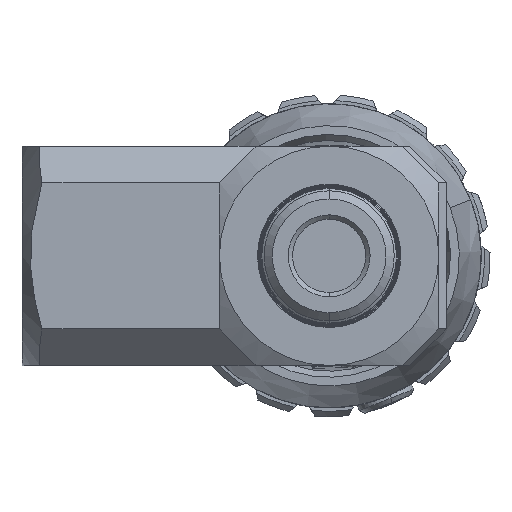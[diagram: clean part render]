
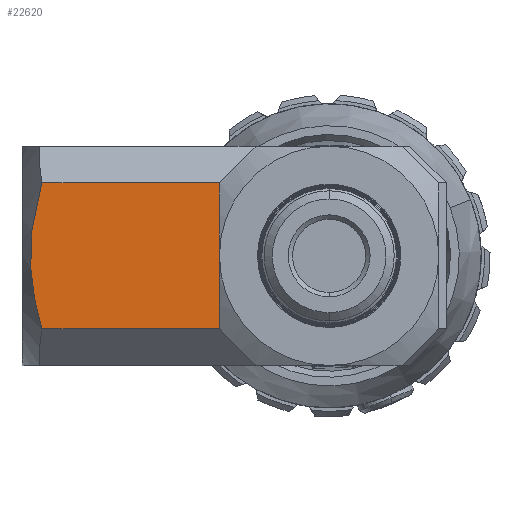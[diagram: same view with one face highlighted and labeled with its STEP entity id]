
A CAD part, front view. The second image highlights one B-rep face of the part: STEP entity #22620.
In plain terms, the highlighted planar face has unit normal (0, -1, 0).
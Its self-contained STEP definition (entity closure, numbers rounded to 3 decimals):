
#1097 = EDGE_CURVE ( 'NONE', #14533, #9849, #18662, .T. ) ;
#1156 = VERTEX_POINT ( 'NONE', #21092 ) ;
#1462 = LINE ( 'NONE', #13863, #20085 ) ;
#2479 = ORIENTED_EDGE ( 'NONE', *, *, #18962, .T. ) ;
#3250 = CARTESIAN_POINT ( 'NONE',  ( -19.637, -8.5, -5. ) ) ;
#3469 = EDGE_CURVE ( 'NONE', #9849, #24093, #14616, .T. ) ;
#3583 = CARTESIAN_POINT ( 'NONE',  ( -19.873, -8.5, 4.192 ) ) ;
#4554 = DIRECTION ( 'NONE',  ( 0., 0., -1. ) ) ;
#4646 = EDGE_CURVE ( 'NONE', #1156, #24093, #5894, .T. ) ;
#4937 = DIRECTION ( 'NONE',  ( 1., 0., 0. ) ) ;
#5894 = LINE ( 'NONE', #19136, #11615 ) ;
#6014 = CARTESIAN_POINT ( 'NONE',  ( -19.637, -8.5, 5. ) ) ;
#8472 = CARTESIAN_POINT ( 'NONE',  ( -20.423, -8.5, 0.847 ) ) ;
#8712 = CARTESIAN_POINT ( 'NONE',  ( -19.637, -8.5, 5. ) ) ;
#9849 = VERTEX_POINT ( 'NONE', #3250 ) ;
#10354 = ORIENTED_EDGE ( 'NONE', *, *, #4646, .F. ) ;
#10821 = FACE_OUTER_BOUND ( 'NONE', #11739, .T. ) ;
#10927 = CARTESIAN_POINT ( 'NONE',  ( -20.349, -8.5, -1.684 ) ) ;
#11531 = CARTESIAN_POINT ( 'NONE',  ( -21., -8.5, 7.5 ) ) ;
#11615 = VECTOR ( 'NONE', #4554, 1000. ) ;
#11739 = EDGE_LOOP ( 'NONE', ( #2479, #20014, #23556, #10354 ) ) ;
#12766 = AXIS2_PLACEMENT_3D ( 'NONE', #11531, #28513, #13971 ) ;
#13338 = CARTESIAN_POINT ( 'NONE',  ( -19.874, -8.5, -4.187 ) ) ;
#13743 = PLANE ( 'NONE',  #12766 ) ;
#13863 = CARTESIAN_POINT ( 'NONE',  ( -21., -8.5, 5. ) ) ;
#13956 = CARTESIAN_POINT ( 'NONE',  ( -7.5, -8.5, -5. ) ) ;
#13971 = DIRECTION ( 'NONE',  ( 0., 0., -1. ) ) ;
#14533 = VERTEX_POINT ( 'NONE', #8712 ) ;
#14616 = LINE ( 'NONE', #21929, #21067 ) ;
#16320 = DIRECTION ( 'NONE',  ( -1., 0., 0. ) ) ;
#18147 = CARTESIAN_POINT ( 'NONE',  ( -20.07, -8.5, 3.374 ) ) ;
#18662 = B_SPLINE_CURVE_WITH_KNOTS ( 'NONE', 3,
 ( #6014, #3583, #18147, #23026, #8472, #25454, #10927, #27901, #13338, #30358 ),
 .UNSPECIFIED., .F., .F.,
 ( 4, 2, 2, 2, 4 ),
 ( 0.022, 0.025, 0.027, 0.03, 0.032 ),
 .UNSPECIFIED. ) ;
#18962 = EDGE_CURVE ( 'NONE', #1156, #14533, #1462, .T. ) ;
#19136 = CARTESIAN_POINT ( 'NONE',  ( -7.5, -8.5, -7.5 ) ) ;
#20014 = ORIENTED_EDGE ( 'NONE', *, *, #1097, .T. ) ;
#20085 = VECTOR ( 'NONE', #16320, 1000. ) ;
#21067 = VECTOR ( 'NONE', #4937, 1000. ) ;
#21092 = CARTESIAN_POINT ( 'NONE',  ( -7.5, -8.5, 5. ) ) ;
#21929 = CARTESIAN_POINT ( 'NONE',  ( -7.5, -8.5, -5. ) ) ;
#22620 = ADVANCED_FACE ( 'NONE', ( #10821 ), #13743, .T. ) ;
#23026 = CARTESIAN_POINT ( 'NONE',  ( -20.346, -8.5, 1.705 ) ) ;
#23556 = ORIENTED_EDGE ( 'NONE', *, *, #3469, .T. ) ;
#24093 = VERTEX_POINT ( 'NONE', #13956 ) ;
#25454 = CARTESIAN_POINT ( 'NONE',  ( -20.423, -8.5, -0.844 ) ) ;
#27901 = CARTESIAN_POINT ( 'NONE',  ( -20.075, -8.5, -3.354 ) ) ;
#28513 = DIRECTION ( 'NONE',  ( 0., -1., 0. ) ) ;
#30358 = CARTESIAN_POINT ( 'NONE',  ( -19.637, -8.5, -5. ) ) ;
